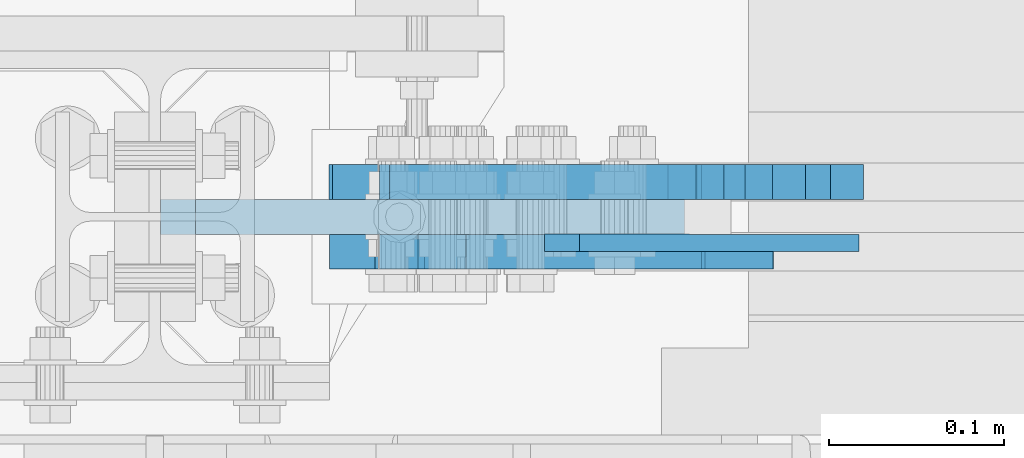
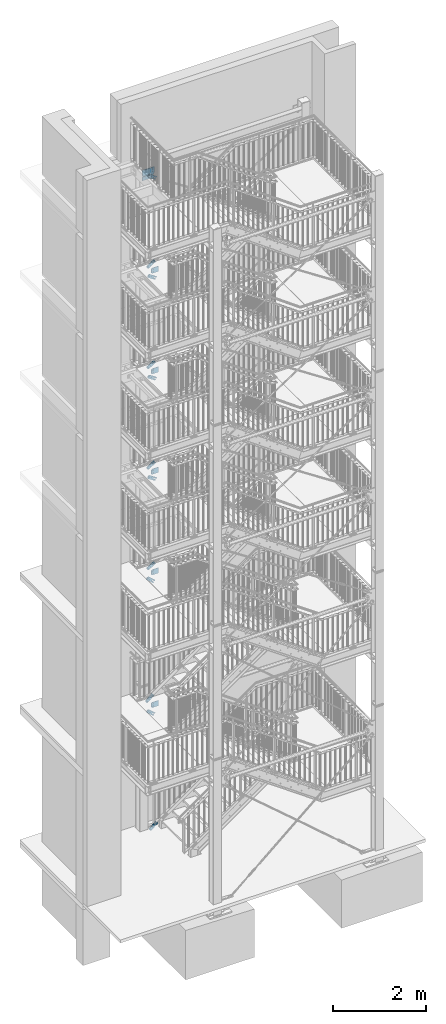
# One storey, part 187 of 831: 18 plates, 50 openings.
"""IFC2X3 building model written with IfcOpenShell, lengths in millimetres."""

from ifc_helpers import new_model, entity, si_unit, converted_unit, point, frame, frame_2d, origin, origin_with_axes, place, context, project, spatial, polyline, circle_curve, line_curve, trimmed, segment, composite_curve, circle, outline, extrude, material, layer, layer_set, element, save


model = new_model("IFC2X3")

# Units and contexts
model_context = context("Model", 3, precision=1e-09, world=origin_with_axes())
ifc_project = project(units=[si_unit("LENGTHUNIT", "METRE", prefix="MILLI"), si_unit("AREAUNIT", "SQUARE_METRE"), si_unit("VOLUMEUNIT", "CUBIC_METRE"), converted_unit("PLANEANGLEUNIT", "DEGREE", entity("IfcPlaneAngleMeasure", 0.01745329), si_unit("PLANEANGLEUNIT", "RADIAN"), dimensions=[0, 0, 0, 0, 0, 0, 0])], contexts=[model_context])

# Site, building, storey
site_placement = place(None, origin_with_axes())
site = spatial("IfcSite", under=ifc_project, at=site_placement, Name="Site", CompositionType="ELEMENT")
building_placement = place(site_placement, origin_with_axes())
building = spatial("IfcBuilding", under=site, at=building_placement, Name="Struktur 1", CompositionType="ELEMENT")
storey_placement = place(building_placement, origin_with_axes())
storey = spatial("IfcBuildingStorey", under=building, at=storey_placement, Name="Default Storey", CompositionType="ELEMENT", Elevation=0.0)

# Plate, openings
ifc_material = material(Name="S235JR")
ifc_layer_1 = layer(ifc_material, 20.0)
ifc_layer_set_1 = layer_set([ifc_layer_1], Name="S235JR")
plate_1_placement = place(None, frame((5159.963402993, 7526.736971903, 17582.999996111), z_axis=(0.0, -1.0, 0.0), x_axis=(-1.0, 0.0, 0.0)))
plate_1 = element("IfcPlate", 1, at=plate_1_placement, inside=storey, material=ifc_layer_set_1, Name="-", ObjectType="-", context=model_context, shape_type="SweptSolid", body=[
    extrude(outline(polyline([(0.0, -110.0), (300.0, -110.0), (300.0, 277.428405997), (80.797896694, 277.428405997), (0.0, 154.0), (0.0, -110.0)])), origin_with_axes(), (0.0, 0.0, 1.0), 20.0),
])
opening_1_placement = place(plate_1_placement, frame((0.0, 0.0, 20.1), z_axis=(0.0, 0.0, -1.0), x_axis=(1.0, 0.0, 0.0)))
element("IfcOpeningElement", 2, at=opening_1_placement, cuts=plate_1, ObjectType="Opening", context=model_context, shape_type="SweptSolid", body=[
    extrude(outline(composite_curve([segment(trimmed(line_curve((320.001, -147.998996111), (-1.0, 0.0), 20.001414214), [point((320.001, -147.998996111))], [point((299.999585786, -147.998996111))], True, "CARTESIAN"), True, "CONTINUOUS"), segment(trimmed(line_curve((299.999585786, -147.998996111), (-0.707106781, -0.707106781), 28.284271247), [point((299.999585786, -147.998996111))], [point((279.999585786, -167.998996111))], True, "CARTESIAN"), True, "CONTINUOUS"), segment(trimmed(line_curve((279.999585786, -167.998996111), (-1.0, 0.0), 77.749585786), [point((279.999585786, -167.998996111))], [point((202.25, -167.998996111))], True, "CARTESIAN"), True, "CONTINUOUS"), segment(trimmed(circle_curve(frame_2d((202.25, -173.999996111), x_axis=(1.0, 0.0)), 6.001), [point((202.25, -167.998996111))], [point((202.250004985, -180.000996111))], True, "CARTESIAN"), True, "CONTINUOUS"), segment(trimmed(line_curve((202.250004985, -180.000996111), (1.0, 0.0), 77.749580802), [point((202.250004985, -180.000996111))], [point((279.999585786, -180.000996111))], True, "CARTESIAN"), True, "CONTINUOUS"), segment(trimmed(line_curve((279.999585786, -180.000996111), (0.707106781, -0.707106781), 28.284271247), [point((279.999585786, -180.000996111))], [point((299.999585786, -200.000996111))], True, "CARTESIAN"), True, "CONTINUOUS"), segment(trimmed(line_curve((299.999585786, -200.000996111), (1.0, 0.0), 20.001414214), [point((299.999585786, -200.000996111))], [point((320.001, -200.000996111))], True, "CARTESIAN"), True, "CONTINUOUS"), segment(trimmed(line_curve((320.001, -200.000996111), (0.0, 1.0), 52.002), [point((320.001, -200.000996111))], [point((320.001, -147.998996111))], True, "CARTESIAN"), True, "CONTINUOUS")], self_intersect=False)), origin(), (0.0, 0.0, 1.0), 20.2),
])
opening_2_placement = place(plate_1_placement, frame((0.0, 0.0, -0.1), z_axis=(0.0, 0.0, 1.0), x_axis=(-1.0, 0.0, 0.0)))
element("IfcOpeningElement", 3, at=opening_2_placement, cuts=plate_1, ObjectType="Opening", context=model_context, shape_type="SweptSolid", body=[
    extrude(outline(polyline([(123.401028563, 206.927402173), (-355.357954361, 206.927402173), (-355.357954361, -85.360632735), (-279.997757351, -10.001996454), (153.908737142, -10.001996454), (123.401028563, 206.927402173)])), origin(), (0.0, 0.0, 1.0), 20.2),
])
opening_3_placement = place(plate_1_placement, frame((30.999001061, 54.0, -0.5), z_axis=(0.0, 0.0, -1.0), x_axis=(-1.0, 0.0, 0.0)))
element("IfcOpeningElement", 4, at=opening_3_placement, cuts=plate_1, ObjectType="Opening", context=model_context, shape_type="SweptSolid", body=[
    extrude(circle(Radius=9.001, at=frame_2d((-9.001, 0.0), x_axis=(1.0, 0.0))), origin(), (0.0, 0.0, -1.0), 21.0),
])
opening_4_placement = place(plate_1_placement, frame((30.999001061, 114.0, -0.5), z_axis=(0.0, 0.0, -1.0), x_axis=(-1.0, 0.0, 0.0)))
element("IfcOpeningElement", 5, at=opening_4_placement, cuts=plate_1, ObjectType="Opening", context=model_context, shape_type="SweptSolid", body=[
    extrude(circle(Radius=9.001, at=frame_2d((-9.001, 0.0), x_axis=(1.0, 0.0))), origin(), (0.0, 0.0, -1.0), 21.0),
])
opening_5_placement = place(plate_1_placement, frame((95.605125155, 219.668222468, -0.5), z_axis=(0.0, 0.0, -1.0), x_axis=(-1.0, 0.0, 0.0)))
element("IfcOpeningElement", 6, at=opening_5_placement, cuts=plate_1, ObjectType="Opening", context=model_context, shape_type="SweptSolid", body=[
    extrude(circle(Radius=9.001, at=frame_2d((7.535218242, 4.923259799), x_axis=(1.0, 0.0))), origin(), (0.0, 0.0, -1.0), 21.0),
])
opening_6_placement = place(plate_1_placement, frame((145.834332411, 186.850136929, -0.5), z_axis=(0.0, 0.0, -1.0), x_axis=(-1.0, 0.0, 0.0)))
element("IfcOpeningElement", 7, at=opening_6_placement, cuts=plate_1, ObjectType="Opening", context=model_context, shape_type="SweptSolid", body=[
    extrude(circle(Radius=9.001, at=frame_2d((7.535218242, 4.923259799), x_axis=(1.0, 0.0))), origin(), (0.0, 0.0, -1.0), 21.0),
])

plate_2_placement = place(None, frame((5229.22994435, 7546.736971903, 395.194486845), z_axis=(0.0, -1.0, 0.0), x_axis=(-0.652408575, 0.0, 0.757867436)))
plate_2 = element("IfcPlate", 8, at=plate_2_placement, inside=storey, material=ifc_layer_set_1, Name="-", ObjectType="-", context=model_context, shape_type="SweptSolid", body=[
    extrude(outline(polyline([(0.0, 0.0), (29.0, 0.0), (29.0, 210.0), (9.0, 230.0), (-31.0, 230.0), (-51.0, 210.0), (-51.0, 0.0), (-22.0, 0.0), (-22.0, 80.0), (0.0, 80.0), (0.0, 0.0)])), origin_with_axes(), (0.0, 0.0, 1.0), 20.0),
])
opening_7_placement = place(plate_2_placement, frame((-11.0, 170.0, -0.5), z_axis=(0.0, 0.0, 1.0), x_axis=(0.0, -1.0, 0.0)))
element("IfcOpeningElement", 9, at=opening_7_placement, cuts=plate_2, ObjectType="Opening", context=model_context, shape_type="SweptSolid", body=[
    extrude(circle(Radius=9.001, at=frame_2d((30.0, 0.0), x_axis=(1.0, 0.0))), origin(), (0.0, 0.0, 1.0), 21.0),
])
opening_8_placement = place(plate_2_placement, frame((-11.0, 170.0, -0.5), z_axis=(0.0, 0.0, 1.0), x_axis=(0.0, -1.0, 0.0)))
element("IfcOpeningElement", 10, at=opening_8_placement, cuts=plate_2, ObjectType="Opening", context=model_context, shape_type="SweptSolid", body=[
    extrude(circle(Radius=9.001, at=frame_2d((-30.0, 0.0), x_axis=(1.0, 0.0))), origin(), (0.0, 0.0, 1.0), 21.0),
])

plate_3_placement = place(None, frame((5182.479893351, 7546.736971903, 7211.963357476), z_axis=(0.0, -1.0, 0.0), x_axis=(-0.548722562, 0.0, 0.836004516)))
plate_3 = element("IfcPlate", 11, at=plate_3_placement, inside=storey, material=ifc_layer_set_1, Name="-", ObjectType="-", context=model_context, shape_type="SweptSolid", body=[
    extrude(outline(polyline([(0.0, 0.0), (29.0, 0.0), (29.0, 210.0), (9.0, 230.0), (-31.0, 230.0), (-51.0, 210.0), (-51.0, 0.0), (-22.0, 0.0), (-22.0, 80.0), (0.0, 80.0), (0.0, 0.0)])), origin_with_axes(), (0.0, 0.0, 1.0), 20.0),
])
opening_9_placement = place(plate_3_placement, frame((-11.0, 170.0, -0.5), z_axis=(0.0, 0.0, 1.0), x_axis=(0.0, -1.0, 0.0)))
element("IfcOpeningElement", 12, at=opening_9_placement, cuts=plate_3, ObjectType="Opening", context=model_context, shape_type="SweptSolid", body=[
    extrude(circle(Radius=9.001, at=frame_2d((30.0, 0.0), x_axis=(1.0, 0.0))), origin(), (0.0, 0.0, 1.0), 21.0),
])
opening_10_placement = place(plate_3_placement, frame((-11.0, 170.0, -0.5), z_axis=(0.0, 0.0, 1.0), x_axis=(0.0, -1.0, 0.0)))
element("IfcOpeningElement", 13, at=opening_10_placement, cuts=plate_3, ObjectType="Opening", context=model_context, shape_type="SweptSolid", body=[
    extrude(circle(Radius=9.001, at=frame_2d((-30.0, 0.0), x_axis=(1.0, 0.0))), origin(), (0.0, 0.0, 1.0), 21.0),
])

plate_4_placement = place(None, frame((5136.237715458, 7546.736971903, 3768.643811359), z_axis=(0.0, -1.0, 0.0), x_axis=(-0.654679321, 0.0, 0.755906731)))
plate_4 = element("IfcPlate", 14, at=plate_4_placement, inside=storey, material=ifc_layer_set_1, Name="-", ObjectType="-", context=model_context, shape_type="SweptSolid", body=[
    extrude(outline(polyline([(0.0, 0.0), (29.0, 0.0), (29.0, 210.0), (9.0, 230.0), (-31.0, 230.0), (-51.0, 210.0), (-51.0, 0.0), (-22.0, 0.0), (-22.0, 80.0), (0.0, 80.0), (0.0, 0.0)])), origin_with_axes(), (0.0, 0.0, 1.0), 20.0),
])
opening_11_placement = place(plate_4_placement, frame((-11.0, 170.0, -0.5), z_axis=(0.0, 0.0, 1.0), x_axis=(0.0, -1.0, 0.0)))
element("IfcOpeningElement", 15, at=opening_11_placement, cuts=plate_4, ObjectType="Opening", context=model_context, shape_type="SweptSolid", body=[
    extrude(circle(Radius=9.001, at=frame_2d((30.0, 0.0), x_axis=(1.0, 0.0))), origin(), (0.0, 0.0, 1.0), 21.0),
])
opening_12_placement = place(plate_4_placement, frame((-11.0, 170.0, -0.5), z_axis=(0.0, 0.0, 1.0), x_axis=(0.0, -1.0, 0.0)))
element("IfcOpeningElement", 16, at=opening_12_placement, cuts=plate_4, ObjectType="Opening", context=model_context, shape_type="SweptSolid", body=[
    extrude(circle(Radius=9.001, at=frame_2d((-30.0, 0.0), x_axis=(1.0, 0.0))), origin(), (0.0, 0.0, 1.0), 21.0),
])

plate_5_placement = place(None, frame((5138.483538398, 7506.736971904, 3254.92436087), z_axis=(0.0, 1.0, 0.0), x_axis=(-0.652408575, 0.0, -0.757867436)))
plate_5 = element("IfcPlate", 17, at=plate_5_placement, inside=storey, material=ifc_layer_set_1, Name="-", ObjectType="-", context=model_context, shape_type="SweptSolid", body=[
    extrude(outline(polyline([(0.0, 0.0), (29.0, 0.0), (29.0, 210.0), (9.0, 230.0), (-31.0, 230.0), (-51.0, 210.0), (-51.0, 0.0), (-22.0, 0.0), (-22.0, 80.0), (0.0, 80.0), (0.0, 0.0)])), origin_with_axes(), (0.0, 0.0, -1.0), 20.0),
])
opening_13_placement = place(plate_5_placement, frame((-11.000000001, 149.001, 0.5), z_axis=(0.0, 0.0, 1.0), x_axis=(1.0, 0.0, 0.0)))
element("IfcOpeningElement", 18, at=opening_13_placement, cuts=plate_5, ObjectType="Opening", context=model_context, shape_type="SweptSolid", body=[
    extrude(circle(Radius=9.001, at=frame_2d((0.0, -9.001), x_axis=(1.0, 0.0))), origin(), (0.0, 0.0, -1.0), 21.0),
])
opening_14_placement = place(plate_5_placement, frame((-11.000000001, 209.001, 0.5), z_axis=(0.0, 0.0, 1.0), x_axis=(1.0, 0.0, 0.0)))
element("IfcOpeningElement", 19, at=opening_14_placement, cuts=plate_5, ObjectType="Opening", context=model_context, shape_type="SweptSolid", body=[
    extrude(circle(Radius=9.001, at=frame_2d((0.0, -9.001), x_axis=(1.0, 0.0))), origin(), (0.0, 0.0, -1.0), 21.0),
])

plate_6_placement = place(None, frame((5136.378489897, 7506.736971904, 6728.234258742), z_axis=(0.0, 1.0, 0.0), x_axis=(-0.654679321, 0.0, -0.755906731)))
plate_6 = element("IfcPlate", 20, at=plate_6_placement, inside=storey, material=ifc_layer_set_1, Name="-", ObjectType="-", context=model_context, shape_type="SweptSolid", body=[
    extrude(outline(polyline([(0.0, 0.0), (29.0, 0.0), (29.0, 210.0), (9.0, 230.0), (-31.0, 230.0), (-51.0, 210.0), (-51.0, 0.0), (-22.0, 0.0), (-22.0, 80.0), (0.0, 80.0), (0.0, 0.0)])), origin_with_axes(), (0.0, 0.0, -1.0), 20.0),
])
opening_15_placement = place(plate_6_placement, frame((-11.0, 149.001, 0.5), z_axis=(0.0, 0.0, 1.0), x_axis=(1.0, 0.0, 0.0)))
element("IfcOpeningElement", 21, at=opening_15_placement, cuts=plate_6, ObjectType="Opening", context=model_context, shape_type="SweptSolid", body=[
    extrude(circle(Radius=9.001, at=frame_2d((0.0, -9.001), x_axis=(1.0, 0.0))), origin(), (0.0, 0.0, -1.0), 21.0),
])
opening_16_placement = place(plate_6_placement, frame((-11.0, 209.001, 0.5), z_axis=(0.0, 0.0, 1.0), x_axis=(1.0, 0.0, 0.0)))
element("IfcOpeningElement", 22, at=opening_16_placement, cuts=plate_6, ObjectType="Opening", context=model_context, shape_type="SweptSolid", body=[
    extrude(circle(Radius=9.001, at=frame_2d((0.0, -9.001), x_axis=(1.0, 0.0))), origin(), (0.0, 0.0, -1.0), 21.0),
])

plate_7_placement = place(None, frame((5182.60391541, 7506.736971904, 9389.94099275), z_axis=(0.0, 1.0, 0.0), x_axis=(-0.548720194, 0.0, -0.83600607)))
plate_7 = element("IfcPlate", 23, at=plate_7_placement, inside=storey, material=ifc_layer_set_1, Name="-", ObjectType="-", context=model_context, shape_type="SweptSolid", body=[
    extrude(outline(polyline([(0.0, 0.0), (29.0, 0.0), (29.0, 210.0), (9.0, 230.0), (-31.0, 230.0), (-51.0, 210.0), (-51.0, 0.0), (-22.0, 0.0), (-22.0, 80.0), (0.0, 80.0), (0.0, 0.0)])), origin_with_axes(), (0.0, 0.0, -1.0), 20.0),
])
opening_17_placement = place(plate_7_placement, frame((-11.0, 149.001, 0.5), z_axis=(0.0, 0.0, 1.0), x_axis=(1.0, 0.0, 0.0)))
element("IfcOpeningElement", 24, at=opening_17_placement, cuts=plate_7, ObjectType="Opening", context=model_context, shape_type="SweptSolid", body=[
    extrude(circle(Radius=9.001, at=frame_2d((0.0, -9.001), x_axis=(1.0, 0.0))), origin(), (0.0, 0.0, -1.0), 21.0),
])
opening_18_placement = place(plate_7_placement, frame((-11.0, 209.001, 0.5), z_axis=(0.0, 0.0, 1.0), x_axis=(1.0, 0.0, 0.0)))
element("IfcOpeningElement", 25, at=opening_18_placement, cuts=plate_7, ObjectType="Opening", context=model_context, shape_type="SweptSolid", body=[
    extrude(circle(Radius=9.001, at=frame_2d((0.0, -9.001), x_axis=(1.0, 0.0))), origin(), (0.0, 0.0, -1.0), 21.0),
])

plate_8_placement = place(None, frame((5182.641566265, 7546.736971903, 9843.734363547), z_axis=(0.0, -1.0, 0.0), x_axis=(-0.54798027, 0.0, 0.836491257)))
plate_8 = element("IfcPlate", 26, at=plate_8_placement, inside=storey, material=ifc_layer_set_1, Name="-", ObjectType="-", context=model_context, shape_type="SweptSolid", body=[
    extrude(outline(polyline([(0.0, 0.0), (29.0, 0.0), (29.0, 210.0), (9.0, 230.0), (-31.0, 230.0), (-51.0, 210.0), (-51.0, 0.0), (-22.0, 0.0), (-22.0, 80.0), (0.0, 80.0), (0.0, 0.0)])), origin_with_axes(), (0.0, 0.0, 1.0), 20.0),
])
opening_19_placement = place(plate_8_placement, frame((-11.0, 170.0, -0.5), z_axis=(0.0, 0.0, 1.0), x_axis=(0.0, -1.0, 0.0)))
element("IfcOpeningElement", 27, at=opening_19_placement, cuts=plate_8, ObjectType="Opening", context=model_context, shape_type="SweptSolid", body=[
    extrude(circle(Radius=9.001, at=frame_2d((30.0, 0.0), x_axis=(1.0, 0.0))), origin(), (0.0, 0.0, 1.0), 21.0),
])
opening_20_placement = place(plate_8_placement, frame((-11.0, 170.0, -0.5), z_axis=(0.0, 0.0, 1.0), x_axis=(0.0, -1.0, 0.0)))
element("IfcOpeningElement", 28, at=opening_20_placement, cuts=plate_8, ObjectType="Opening", context=model_context, shape_type="SweptSolid", body=[
    extrude(circle(Radius=9.001, at=frame_2d((-30.0, 0.0), x_axis=(1.0, 0.0))), origin(), (0.0, 0.0, 1.0), 21.0),
])

plate_9_placement = place(None, frame((5182.801474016, 7506.736971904, 12017.225438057), z_axis=(0.0, 1.0, 0.0), x_axis=(-0.547991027, 0.0, -0.83648421)))
plate_9 = element("IfcPlate", 29, at=plate_9_placement, inside=storey, material=ifc_layer_set_1, Name="-", ObjectType="-", context=model_context, shape_type="SweptSolid", body=[
    extrude(outline(polyline([(0.0, 0.0), (29.0, 0.0), (29.0, 210.0), (9.0, 230.0), (-31.0, 230.0), (-51.0, 210.0), (-51.0, 0.0), (-22.0, 0.0), (-22.0, 80.0), (0.0, 80.0), (0.0, 0.0)])), origin_with_axes(), (0.0, 0.0, -1.0), 20.0),
])
opening_21_placement = place(plate_9_placement, frame((-11.0, 149.001, 0.5), z_axis=(0.0, 0.0, 1.0), x_axis=(1.0, 0.0, 0.0)))
element("IfcOpeningElement", 30, at=opening_21_placement, cuts=plate_9, ObjectType="Opening", context=model_context, shape_type="SweptSolid", body=[
    extrude(circle(Radius=9.001, at=frame_2d((0.0, -9.001), x_axis=(1.0, 0.0))), origin(), (0.0, 0.0, -1.0), 21.0),
])
opening_22_placement = place(plate_9_placement, frame((-11.0, 209.001, 0.5), z_axis=(0.0, 0.0, 1.0), x_axis=(1.0, 0.0, 0.0)))
element("IfcOpeningElement", 31, at=opening_22_placement, cuts=plate_9, ObjectType="Opening", context=model_context, shape_type="SweptSolid", body=[
    extrude(circle(Radius=9.001, at=frame_2d((0.0, -9.001), x_axis=(1.0, 0.0))), origin(), (0.0, 0.0, -1.0), 21.0),
])

plate_10_placement = place(None, frame((5182.354870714, 7546.736971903, 12471.143676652), z_axis=(0.0, -1.0, 0.0), x_axis=(-0.549157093, 0.0, 0.835719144)))
plate_10 = element("IfcPlate", 32, at=plate_10_placement, inside=storey, material=ifc_layer_set_1, Name="-", ObjectType="-", context=model_context, shape_type="SweptSolid", body=[
    extrude(outline(polyline([(0.0, 0.0), (29.0, 0.0), (29.0, 210.0), (9.0, 230.0), (-31.0, 230.0), (-51.0, 210.0), (-51.0, 0.0), (-22.0, 0.0), (-22.0, 80.0), (0.0, 80.0), (0.0, 0.0)])), origin_with_axes(), (0.0, 0.0, 1.0), 20.0),
])
opening_23_placement = place(plate_10_placement, frame((-11.0, 170.0, -0.5), z_axis=(0.0, 0.0, 1.0), x_axis=(0.0, -1.0, 0.0)))
element("IfcOpeningElement", 33, at=opening_23_placement, cuts=plate_10, ObjectType="Opening", context=model_context, shape_type="SweptSolid", body=[
    extrude(circle(Radius=9.001, at=frame_2d((30.0, 0.0), x_axis=(1.0, 0.0))), origin(), (0.0, 0.0, 1.0), 21.0),
])
opening_24_placement = place(plate_10_placement, frame((-11.0, 170.0, -0.5), z_axis=(0.0, 0.0, 1.0), x_axis=(0.0, -1.0, 0.0)))
element("IfcOpeningElement", 34, at=opening_24_placement, cuts=plate_10, ObjectType="Opening", context=model_context, shape_type="SweptSolid", body=[
    extrude(circle(Radius=9.001, at=frame_2d((-30.0, 0.0), x_axis=(1.0, 0.0))), origin(), (0.0, 0.0, 1.0), 21.0),
])

plate_11_placement = place(None, frame((5182.485458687, 7506.736971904, 14651.77050571), z_axis=(0.0, 1.0, 0.0), x_axis=(-0.549157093, 0.0, -0.835719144)))
plate_11 = element("IfcPlate", 35, at=plate_11_placement, inside=storey, material=ifc_layer_set_1, Name="-", ObjectType="-", context=model_context, shape_type="SweptSolid", body=[
    extrude(outline(polyline([(0.0, 0.0), (29.0, 0.0), (29.0, 210.0), (9.0, 230.0), (-31.0, 230.0), (-51.0, 210.0), (-51.0, 0.0), (-22.0, 0.0), (-22.0, 80.0), (0.0, 80.0), (0.0, 0.0)])), origin_with_axes(), (0.0, 0.0, -1.0), 20.0),
])
opening_25_placement = place(plate_11_placement, frame((-11.0, 149.001, 0.5), z_axis=(0.0, 0.0, 1.0), x_axis=(1.0, 0.0, 0.0)))
element("IfcOpeningElement", 36, at=opening_25_placement, cuts=plate_11, ObjectType="Opening", context=model_context, shape_type="SweptSolid", body=[
    extrude(circle(Radius=9.001, at=frame_2d((0.0, -9.001), x_axis=(1.0, 0.0))), origin(), (0.0, 0.0, -1.0), 21.0),
])
opening_26_placement = place(plate_11_placement, frame((-11.0, 209.001, 0.5), z_axis=(0.0, 0.0, 1.0), x_axis=(1.0, 0.0, 0.0)))
element("IfcOpeningElement", 37, at=opening_26_placement, cuts=plate_11, ObjectType="Opening", context=model_context, shape_type="SweptSolid", body=[
    extrude(circle(Radius=9.001, at=frame_2d((0.0, -9.001), x_axis=(1.0, 0.0))), origin(), (0.0, 0.0, -1.0), 21.0),
])

plate_12_placement = place(None, frame((5182.948039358, 7546.736971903, 15105.290571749), z_axis=(0.0, -1.0, 0.0), x_axis=(-0.546968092, 0.0, 0.837153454)))
plate_12 = element("IfcPlate", 38, at=plate_12_placement, inside=storey, material=ifc_layer_set_1, Name="-", ObjectType="-", context=model_context, shape_type="SweptSolid", body=[
    extrude(outline(polyline([(0.0, 0.0), (29.0, 0.0), (29.0, 210.0), (9.0, 230.0), (-31.0, 230.0), (-51.0, 210.0), (-51.0, 0.0), (-22.0, 0.0), (-22.0, 80.0), (0.0, 80.0), (0.0, 0.0)])), origin_with_axes(), (0.0, 0.0, 1.0), 20.0),
])
opening_27_placement = place(plate_12_placement, frame((-11.0, 170.0, -0.5), z_axis=(0.0, 0.0, 1.0), x_axis=(0.0, -1.0, 0.0)))
element("IfcOpeningElement", 39, at=opening_27_placement, cuts=plate_12, ObjectType="Opening", context=model_context, shape_type="SweptSolid", body=[
    extrude(circle(Radius=9.001, at=frame_2d((30.0, 0.0), x_axis=(1.0, 0.0))), origin(), (0.0, 0.0, 1.0), 21.0),
])
opening_28_placement = place(plate_12_placement, frame((-11.0, 170.0, -0.5), z_axis=(0.0, 0.0, 1.0), x_axis=(0.0, -1.0, 0.0)))
element("IfcOpeningElement", 40, at=opening_28_placement, cuts=plate_12, ObjectType="Opening", context=model_context, shape_type="SweptSolid", body=[
    extrude(circle(Radius=9.001, at=frame_2d((-30.0, 0.0), x_axis=(1.0, 0.0))), origin(), (0.0, 0.0, 1.0), 21.0),
])

plate_13_placement = place(None, frame((5183.078330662, 7506.736971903, 17272.624292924), z_axis=(0.0, 1.0, 0.0), x_axis=(-0.546968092, 0.0, -0.837153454)))
plate_13 = element("IfcPlate", 41, at=plate_13_placement, inside=storey, material=ifc_layer_set_1, Name="-", ObjectType="-", context=model_context, shape_type="SweptSolid", body=[
    extrude(outline(polyline([(0.0, 0.0), (29.0, 0.0), (29.0, 210.0), (9.0, 230.0), (-31.0, 230.0), (-51.0, 210.0), (-51.0, 0.0), (-22.0, 0.0), (-22.0, 80.0), (0.0, 80.0), (0.0, 0.0)])), origin_with_axes(), (0.0, 0.0, -1.0), 20.0),
])
opening_29_placement = place(plate_13_placement, frame((-11.0, 149.001, 0.5), z_axis=(0.0, 0.0, 1.0), x_axis=(1.0, 0.0, 0.0)))
element("IfcOpeningElement", 42, at=opening_29_placement, cuts=plate_13, ObjectType="Opening", context=model_context, shape_type="SweptSolid", body=[
    extrude(circle(Radius=9.001, at=frame_2d((0.0, -9.001), x_axis=(1.0, 0.0))), origin(), (0.0, 0.0, -1.0), 21.0),
])
opening_30_placement = place(plate_13_placement, frame((-10.999999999, 209.001, 0.5), z_axis=(0.0, 0.0, 1.0), x_axis=(1.0, 0.0, 0.0)))
element("IfcOpeningElement", 43, at=opening_30_placement, cuts=plate_13, ObjectType="Opening", context=model_context, shape_type="SweptSolid", body=[
    extrude(circle(Radius=9.001, at=frame_2d((0.0, -9.001), x_axis=(1.0, 0.0))), origin(), (0.0, 0.0, -1.0), 21.0),
])

ifc_layer_2 = layer(ifc_material, 10.0)
ifc_layer_set_2 = layer_set([ifc_layer_2], Name="S235JR")
plate_14_placement = place(None, frame((5169.963401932, 7506.736971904, 6984.999996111), z_axis=(0.0, 1.0, 0.0), x_axis=(-1.0, 0.0, 0.0)))
plate_14 = element("IfcPlate", 44, at=plate_14_placement, inside=storey, material=ifc_layer_set_2, Name="-", ObjectType="-", context=model_context, shape_type="SweptSolid", body=[
    extrude(outline(polyline([(-90.0, -70.0), (90.0, -70.0), (90.0, 70.0), (-90.0, 70.0), (-90.0, -70.0)])), origin_with_axes(), (0.0, 0.0, -1.0), 10.0),
])
opening_31_placement = place(plate_14_placement, frame((90.0, -70.0, 0.01), z_axis=(0.0, 0.0, 1.0), x_axis=(0.0, 1.0, 0.0)))
element("IfcOpeningElement", 45, at=opening_31_placement, cuts=plate_14, ObjectType="Opening", context=model_context, shape_type="SweptSolid", body=[
    extrude(outline(polyline([(0.0, 0.0), (20.0, 0.0), (0.0, 20.0), (0.0, 0.0)])), origin(), (0.0, 0.0, -1.0), 10.02),
])
opening_32_placement = place(plate_14_placement, frame((90.0, 70.0, 0.01), z_axis=(0.0, 0.0, 1.0), x_axis=(-1.0, 0.0, 0.0)))
element("IfcOpeningElement", 46, at=opening_32_placement, cuts=plate_14, ObjectType="Opening", context=model_context, shape_type="SweptSolid", body=[
    extrude(outline(polyline([(0.0, 0.0), (20.0, 0.0), (0.0, 20.0), (0.0, 0.0)])), origin(), (0.0, 0.0, -1.0), 10.02),
])
opening_33_placement = place(plate_14_placement, frame((40.999, 30.0, 0.5), z_axis=(0.0, 0.0, 1.0), x_axis=(1.0, 0.0, 0.0)))
element("IfcOpeningElement", 47, at=opening_33_placement, cuts=plate_14, ObjectType="Opening", context=model_context, shape_type="SweptSolid", body=[
    extrude(circle(Radius=9.001, at=frame_2d((9.001, 0.0), x_axis=(1.0, 0.0))), origin(), (0.0, 0.0, -1.0), 11.0),
])
opening_34_placement = place(plate_14_placement, frame((40.999, -30.0, 0.5), z_axis=(0.0, 0.0, 1.0), x_axis=(1.0, 0.0, 0.0)))
element("IfcOpeningElement", 48, at=opening_34_placement, cuts=plate_14, ObjectType="Opening", context=model_context, shape_type="SweptSolid", body=[
    extrude(circle(Radius=9.001, at=frame_2d((9.001, 0.0), x_axis=(1.0, 0.0))), origin(), (0.0, 0.0, -1.0), 11.0),
])

plate_15_placement = place(None, frame((5169.963401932, 7506.736971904, 3511.999996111), z_axis=(0.0, 1.0, 0.0), x_axis=(-1.0, 0.0, 0.0)))
plate_15 = element("IfcPlate", 49, at=plate_15_placement, inside=storey, material=ifc_layer_set_2, Name="-", ObjectType="-", context=model_context, shape_type="SweptSolid", body=[
    extrude(outline(polyline([(-90.0, -70.0), (90.0, -70.0), (90.0, 70.0), (-90.0, 70.0), (-90.0, -70.0)])), origin_with_axes(), (0.0, 0.0, -1.0), 10.0),
])
opening_35_placement = place(plate_15_placement, frame((90.0, -70.0, 0.01), z_axis=(0.0, 0.0, 1.0), x_axis=(0.0, 1.0, 0.0)))
element("IfcOpeningElement", 50, at=opening_35_placement, cuts=plate_15, ObjectType="Opening", context=model_context, shape_type="SweptSolid", body=[
    extrude(outline(polyline([(0.0, 0.0), (20.0, 0.0), (0.0, 20.0), (0.0, 0.0)])), origin(), (0.0, 0.0, -1.0), 10.02),
])
opening_36_placement = place(plate_15_placement, frame((90.0, 70.0, 0.01), z_axis=(0.0, 0.0, 1.0), x_axis=(-1.0, 0.0, 0.0)))
element("IfcOpeningElement", 51, at=opening_36_placement, cuts=plate_15, ObjectType="Opening", context=model_context, shape_type="SweptSolid", body=[
    extrude(outline(polyline([(0.0, 0.0), (20.0, 0.0), (0.0, 20.0), (0.0, 0.0)])), origin(), (0.0, 0.0, -1.0), 10.02),
])
opening_37_placement = place(plate_15_placement, frame((40.999, 30.0, 0.5), z_axis=(0.0, 0.0, 1.0), x_axis=(1.0, 0.0, 0.0)))
element("IfcOpeningElement", 52, at=opening_37_placement, cuts=plate_15, ObjectType="Opening", context=model_context, shape_type="SweptSolid", body=[
    extrude(circle(Radius=9.001, at=frame_2d((9.001, 0.0), x_axis=(1.0, 0.0))), origin(), (0.0, 0.0, -1.0), 11.0),
])
opening_38_placement = place(plate_15_placement, frame((40.999, -30.0, 0.5), z_axis=(0.0, 0.0, 1.0), x_axis=(1.0, 0.0, 0.0)))
element("IfcOpeningElement", 53, at=opening_38_placement, cuts=plate_15, ObjectType="Opening", context=model_context, shape_type="SweptSolid", body=[
    extrude(circle(Radius=9.001, at=frame_2d((9.001, 0.0), x_axis=(1.0, 0.0))), origin(), (0.0, 0.0, -1.0), 11.0),
])

plate_16_placement = place(None, frame((5169.963401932, 7506.736971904, 9616.999996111), z_axis=(0.0, 1.0, 0.0), x_axis=(-1.0, 0.0, 0.0)))
plate_16 = element("IfcPlate", 54, at=plate_16_placement, inside=storey, material=ifc_layer_set_2, Name="-", ObjectType="-", context=model_context, shape_type="SweptSolid", body=[
    extrude(outline(polyline([(-90.0, -70.0), (90.0, -70.0), (90.0, 70.0), (-90.0, 70.0), (-90.0, -70.0)])), origin_with_axes(), (0.0, 0.0, -1.0), 10.0),
])
opening_39_placement = place(plate_16_placement, frame((90.0, -70.0, 0.01), z_axis=(0.0, 0.0, 1.0), x_axis=(0.0, 1.0, 0.0)))
element("IfcOpeningElement", 55, at=opening_39_placement, cuts=plate_16, ObjectType="Opening", context=model_context, shape_type="SweptSolid", body=[
    extrude(outline(polyline([(0.0, 0.0), (20.0, 0.0), (0.0, 20.0), (0.0, 0.0)])), origin(), (0.0, 0.0, -1.0), 10.02),
])
opening_40_placement = place(plate_16_placement, frame((90.0, 70.0, 0.01), z_axis=(0.0, 0.0, 1.0), x_axis=(-1.0, 0.0, 0.0)))
element("IfcOpeningElement", 56, at=opening_40_placement, cuts=plate_16, ObjectType="Opening", context=model_context, shape_type="SweptSolid", body=[
    extrude(outline(polyline([(0.0, 0.0), (20.0, 0.0), (0.0, 20.0), (0.0, 0.0)])), origin(), (0.0, 0.0, -1.0), 10.02),
])
opening_41_placement = place(plate_16_placement, frame((40.999, 30.0, 0.5), z_axis=(0.0, 0.0, 1.0), x_axis=(1.0, 0.0, 0.0)))
element("IfcOpeningElement", 57, at=opening_41_placement, cuts=plate_16, ObjectType="Opening", context=model_context, shape_type="SweptSolid", body=[
    extrude(circle(Radius=9.001, at=frame_2d((9.001, 0.0), x_axis=(1.0, 0.0))), origin(), (0.0, 0.0, -1.0), 11.0),
])
opening_42_placement = place(plate_16_placement, frame((40.999, -30.0, 0.5), z_axis=(0.0, 0.0, 1.0), x_axis=(1.0, 0.0, 0.0)))
element("IfcOpeningElement", 58, at=opening_42_placement, cuts=plate_16, ObjectType="Opening", context=model_context, shape_type="SweptSolid", body=[
    extrude(circle(Radius=9.001, at=frame_2d((9.001, 0.0), x_axis=(1.0, 0.0))), origin(), (0.0, 0.0, -1.0), 11.0),
])

plate_17_placement = place(None, frame((5169.963401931, 7506.736971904, 12243.999996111), z_axis=(0.0, 1.0, 0.0), x_axis=(-1.0, 0.0, 0.0)))
plate_17 = element("IfcPlate", 59, at=plate_17_placement, inside=storey, material=ifc_layer_set_2, Name="-", ObjectType="-", context=model_context, shape_type="SweptSolid", body=[
    extrude(outline(polyline([(-90.0, -70.0), (90.0, -70.0), (90.0, 70.0), (-90.0, 70.0), (-90.0, -70.0)])), origin_with_axes(), (0.0, 0.0, -1.0), 10.0),
])
opening_43_placement = place(plate_17_placement, frame((90.0, -70.0, 0.01), z_axis=(0.0, 0.0, 1.0), x_axis=(0.0, 1.0, 0.0)))
element("IfcOpeningElement", 60, at=opening_43_placement, cuts=plate_17, ObjectType="Opening", context=model_context, shape_type="SweptSolid", body=[
    extrude(outline(polyline([(0.0, 0.0), (20.0, 0.0), (0.0, 20.0), (0.0, 0.0)])), origin(), (0.0, 0.0, -1.0), 10.02),
])
opening_44_placement = place(plate_17_placement, frame((90.0, 70.0, 0.01), z_axis=(0.0, 0.0, 1.0), x_axis=(-1.0, 0.0, 0.0)))
element("IfcOpeningElement", 61, at=opening_44_placement, cuts=plate_17, ObjectType="Opening", context=model_context, shape_type="SweptSolid", body=[
    extrude(outline(polyline([(0.0, 0.0), (20.0, 0.0), (0.0, 20.0), (0.0, 0.0)])), origin(), (0.0, 0.0, -1.0), 10.02),
])
opening_45_placement = place(plate_17_placement, frame((40.999, 30.0, 0.5), z_axis=(0.0, 0.0, 1.0), x_axis=(1.0, 0.0, 0.0)))
element("IfcOpeningElement", 62, at=opening_45_placement, cuts=plate_17, ObjectType="Opening", context=model_context, shape_type="SweptSolid", body=[
    extrude(circle(Radius=9.001, at=frame_2d((9.001, 0.0), x_axis=(1.0, 0.0))), origin(), (0.0, 0.0, -1.0), 11.0),
])
opening_46_placement = place(plate_17_placement, frame((40.999, -30.0, 0.5), z_axis=(0.0, 0.0, 1.0), x_axis=(1.0, 0.0, 0.0)))
element("IfcOpeningElement", 63, at=opening_46_placement, cuts=plate_17, ObjectType="Opening", context=model_context, shape_type="SweptSolid", body=[
    extrude(circle(Radius=9.001, at=frame_2d((9.001, 0.0), x_axis=(1.0, 0.0))), origin(), (0.0, 0.0, -1.0), 11.0),
])

plate_18_placement = place(None, frame((5169.963401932, 7506.736971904, 14878.999996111), z_axis=(0.0, 1.0, 0.0), x_axis=(-1.0, 0.0, 0.0)))
plate_18 = element("IfcPlate", 64, at=plate_18_placement, inside=storey, material=ifc_layer_set_2, Name="-", ObjectType="-", context=model_context, shape_type="SweptSolid", body=[
    extrude(outline(polyline([(-90.0, -70.0), (90.0, -70.0), (90.0, 70.0), (-90.0, 70.0), (-90.0, -70.0)])), origin_with_axes(), (0.0, 0.0, -1.0), 10.0),
])
opening_47_placement = place(plate_18_placement, frame((90.0, -70.0, 0.01), z_axis=(0.0, 0.0, 1.0), x_axis=(0.0, 1.0, 0.0)))
element("IfcOpeningElement", 65, at=opening_47_placement, cuts=plate_18, ObjectType="Opening", context=model_context, shape_type="SweptSolid", body=[
    extrude(outline(polyline([(0.0, 0.0), (20.0, 0.0), (0.0, 20.0), (0.0, 0.0)])), origin(), (0.0, 0.0, -1.0), 10.02),
])
opening_48_placement = place(plate_18_placement, frame((90.0, 70.0, 0.01), z_axis=(0.0, 0.0, 1.0), x_axis=(-1.0, 0.0, 0.0)))
element("IfcOpeningElement", 66, at=opening_48_placement, cuts=plate_18, ObjectType="Opening", context=model_context, shape_type="SweptSolid", body=[
    extrude(outline(polyline([(0.0, 0.0), (20.0, 0.0), (0.0, 20.0), (0.0, 0.0)])), origin(), (0.0, 0.0, -1.0), 10.02),
])
opening_49_placement = place(plate_18_placement, frame((40.999, 30.0, 0.5), z_axis=(0.0, 0.0, 1.0), x_axis=(1.0, 0.0, 0.0)))
element("IfcOpeningElement", 67, at=opening_49_placement, cuts=plate_18, ObjectType="Opening", context=model_context, shape_type="SweptSolid", body=[
    extrude(circle(Radius=9.001, at=frame_2d((9.001, 0.0), x_axis=(1.0, 0.0))), origin(), (0.0, 0.0, -1.0), 11.0),
])
opening_50_placement = place(plate_18_placement, frame((40.999, -30.0, 0.5), z_axis=(0.0, 0.0, 1.0), x_axis=(1.0, 0.0, 0.0)))
element("IfcOpeningElement", 68, at=opening_50_placement, cuts=plate_18, ObjectType="Opening", context=model_context, shape_type="SweptSolid", body=[
    extrude(circle(Radius=9.001, at=frame_2d((9.001, 0.0), x_axis=(1.0, 0.0))), origin(), (0.0, 0.0, -1.0), 11.0),
])

save(model, "model.ifc")
